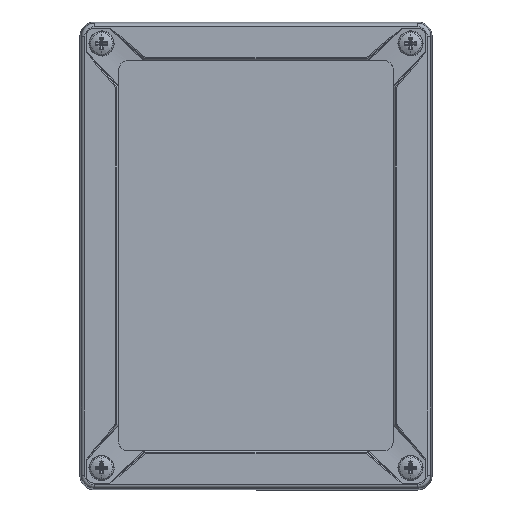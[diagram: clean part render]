
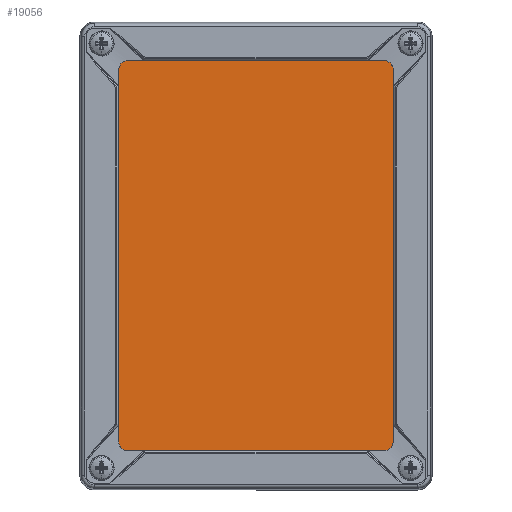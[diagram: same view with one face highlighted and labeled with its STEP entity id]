
A CAD part, top view. The second image highlights one B-rep face of the part: STEP entity #19056.
In plain terms, the highlighted planar face has unit normal (0, 0, 1).
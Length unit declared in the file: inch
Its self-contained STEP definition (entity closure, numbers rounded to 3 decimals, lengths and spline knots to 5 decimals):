
#933 = FACE_OUTER_BOUND ( 'NONE', #66241, .T. ) ;
#1218 = EDGE_CURVE ( 'NONE', #34244, #40671, #60112, .T. ) ;
#2053 = VERTEX_POINT ( 'NONE', #3502 ) ;
#3118 = DIRECTION ( 'NONE',  ( 0., 1., 0. ) ) ;
#3201 = EDGE_CURVE ( 'NONE', #38456, #34244, #26278, .T. ) ;
#3458 = CARTESIAN_POINT ( 'NONE',  ( 1.87008, -2.53937, 1.12967 ) ) ;
#3502 = CARTESIAN_POINT ( 'NONE',  ( 1.75197, 2.65748, 1.12967 ) ) ;
#6321 = DIRECTION ( 'NONE',  ( 0., 0., 1. ) ) ;
#8405 = ORIENTED_EDGE ( 'NONE', *, *, #13843, .T. ) ;
#10622 = VECTOR ( 'NONE', #3118, 39.37008 ) ;
#11861 = EDGE_CURVE ( 'NONE', #34849, #38456, #28048, .T. ) ;
#11997 = ORIENTED_EDGE ( 'NONE', *, *, #3201, .T. ) ;
#13702 = CARTESIAN_POINT ( 'NONE',  ( 1.75197, -2.53937, 1.12967 ) ) ;
#13843 = EDGE_CURVE ( 'NONE', #54318, #34849, #49618, .T. ) ;
#15805 = CARTESIAN_POINT ( 'NONE',  ( -1.75197, 2.53937, 1.12967 ) ) ;
#19056 = ADVANCED_FACE ( 'NONE', ( #933 ), #36508, .T. ) ;
#19658 = VECTOR ( 'NONE', #59100, 39.37008 ) ;
#20616 = DIRECTION ( 'NONE',  ( 1., 0., 0. ) ) ;
#20968 = DIRECTION ( 'NONE',  ( 0., 0., 1. ) ) ;
#21007 = CARTESIAN_POINT ( 'NONE',  ( -1.87008, 2.53937, 1.12967 ) ) ;
#21356 = DIRECTION ( 'NONE',  ( 0., -1., 0. ) ) ;
#22065 = CARTESIAN_POINT ( 'NONE',  ( -1.75197, 2.53937, 1.12967 ) ) ;
#22492 = LINE ( 'NONE', #54592, #32781 ) ;
#23851 = CARTESIAN_POINT ( 'NONE',  ( 1.87008, -2.53937, 1.12967 ) ) ;
#24001 = CARTESIAN_POINT ( 'NONE',  ( -1.87008, 2.53937, 1.12967 ) ) ;
#25059 = DIRECTION ( 'NONE',  ( 1., 0., 0. ) ) ;
#25223 = AXIS2_PLACEMENT_3D ( 'NONE', #15805, #20968, #20616 ) ;
#25535 = DIRECTION ( 'NONE',  ( 0., 0., 1. ) ) ;
#25862 = CARTESIAN_POINT ( 'NONE',  ( -1.75197, -2.53937, 1.12967 ) ) ;
#26201 = DIRECTION ( 'NONE',  ( 1., 0., 0. ) ) ;
#26278 = CIRCLE ( 'NONE', #35104, 0.11811 ) ;
#26559 = DIRECTION ( 'NONE',  ( 0., 0., 1. ) ) ;
#26635 = ORIENTED_EDGE ( 'NONE', *, *, #11861, .T. ) ;
#28048 = LINE ( 'NONE', #64955, #19658 ) ;
#31752 = VERTEX_POINT ( 'NONE', #55084 ) ;
#32781 = VECTOR ( 'NONE', #65607, 39.37008 ) ;
#33940 = VECTOR ( 'NONE', #21356, 39.37008 ) ;
#34244 = VERTEX_POINT ( 'NONE', #23851 ) ;
#34588 = VERTEX_POINT ( 'NONE', #24001 ) ;
#34760 = ORIENTED_EDGE ( 'NONE', *, *, #38051, .T. ) ;
#34849 = VERTEX_POINT ( 'NONE', #67614 ) ;
#35104 = AXIS2_PLACEMENT_3D ( 'NONE', #13702, #51636, #25059 ) ;
#36040 = CARTESIAN_POINT ( 'NONE',  ( 1.75197, 2.53937, 1.12967 ) ) ;
#36508 = PLANE ( 'NONE',  #25223 ) ;
#37033 = ORIENTED_EDGE ( 'NONE', *, *, #63181, .T. ) ;
#37287 = ORIENTED_EDGE ( 'NONE', *, *, #39111, .T. ) ;
#38051 = EDGE_CURVE ( 'NONE', #34588, #54318, #47229, .T. ) ;
#38456 = VERTEX_POINT ( 'NONE', #40269 ) ;
#39111 = EDGE_CURVE ( 'NONE', #2053, #31752, #22492, .T. ) ;
#40269 = CARTESIAN_POINT ( 'NONE',  ( 1.75197, -2.65748, 1.12967 ) ) ;
#40671 = VERTEX_POINT ( 'NONE', #48166 ) ;
#42015 = EDGE_CURVE ( 'NONE', #40671, #2053, #68262, .T. ) ;
#43767 = CARTESIAN_POINT ( 'NONE',  ( -1.87008, -2.53937, 1.12967 ) ) ;
#46541 = ORIENTED_EDGE ( 'NONE', *, *, #42015, .T. ) ;
#46590 = DIRECTION ( 'NONE',  ( 1., 0., 0. ) ) ;
#47229 = LINE ( 'NONE', #21007, #33940 ) ;
#48166 = CARTESIAN_POINT ( 'NONE',  ( 1.87008, 2.53937, 1.12967 ) ) ;
#48451 = DIRECTION ( 'NONE',  ( 1., 0., 0. ) ) ;
#49618 = CIRCLE ( 'NONE', #54038, 0.11811 ) ;
#51636 = DIRECTION ( 'NONE',  ( 0., 0., 1. ) ) ;
#54038 = AXIS2_PLACEMENT_3D ( 'NONE', #25862, #25535, #46590 ) ;
#54318 = VERTEX_POINT ( 'NONE', #43767 ) ;
#54592 = CARTESIAN_POINT ( 'NONE',  ( 1.75197, 2.65748, 1.12967 ) ) ;
#55084 = CARTESIAN_POINT ( 'NONE',  ( -1.75197, 2.65748, 1.12967 ) ) ;
#56137 = AXIS2_PLACEMENT_3D ( 'NONE', #22065, #26559, #26201 ) ;
#58465 = ORIENTED_EDGE ( 'NONE', *, *, #1218, .T. ) ;
#59100 = DIRECTION ( 'NONE',  ( 1., 0., 0. ) ) ;
#59512 = AXIS2_PLACEMENT_3D ( 'NONE', #36040, #6321, #48451 ) ;
#60112 = LINE ( 'NONE', #3458, #10622 ) ;
#62741 = CIRCLE ( 'NONE', #56137, 0.11811 ) ;
#63181 = EDGE_CURVE ( 'NONE', #31752, #34588, #62741, .T. ) ;
#64955 = CARTESIAN_POINT ( 'NONE',  ( -1.75197, -2.65748, 1.12967 ) ) ;
#65607 = DIRECTION ( 'NONE',  ( -1., 0., 0. ) ) ;
#66241 = EDGE_LOOP ( 'NONE', ( #37033, #34760, #8405, #26635, #11997, #58465, #46541, #37287 ) ) ;
#67614 = CARTESIAN_POINT ( 'NONE',  ( -1.75197, -2.65748, 1.12967 ) ) ;
#68262 = CIRCLE ( 'NONE', #59512, 0.11811 ) ;
